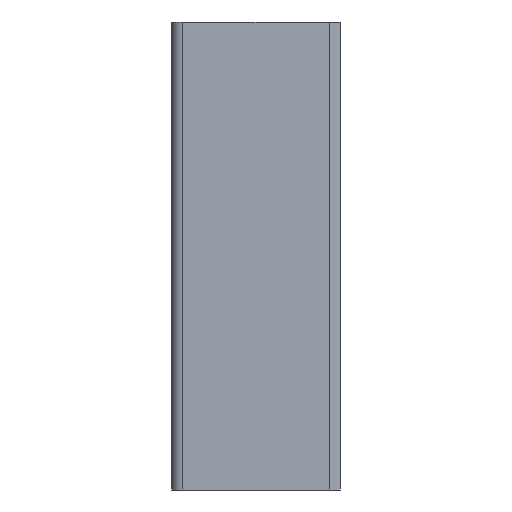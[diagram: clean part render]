
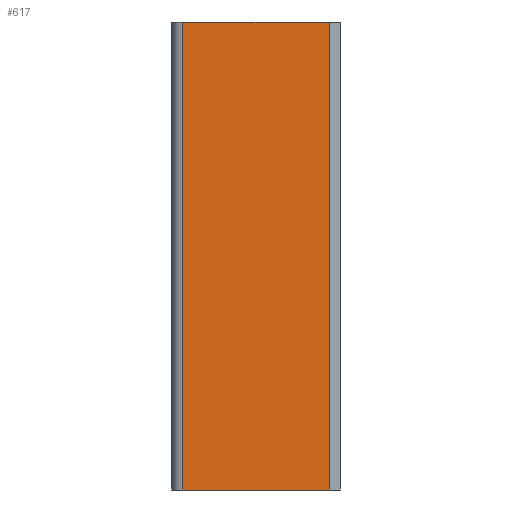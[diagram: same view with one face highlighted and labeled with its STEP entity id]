
A CAD part, left-side view. The second image highlights one B-rep face of the part: STEP entity #617.
In plain terms, the highlighted planar face has unit normal (-1, 0, 0).
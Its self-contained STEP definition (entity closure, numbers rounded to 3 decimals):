
#97=CARTESIAN_POINT('Line Origine',(0.,22.5,0.)) ;
#101=CARTESIAN_POINT('Vertex',(0.,42.,0.)) ;
#103=CARTESIAN_POINT('Vertex',(0.,3.,0.)) ;
#520=CARTESIAN_POINT('Line Origine',(0.,22.5,-125.)) ;
#524=CARTESIAN_POINT('Vertex',(0.,42.,-125.)) ;
#526=CARTESIAN_POINT('Vertex',(0.,3.,-125.)) ;
#596=CARTESIAN_POINT('Axis2P3D Location',(0.,42.,-125.)) ;
#601=CARTESIAN_POINT('Line Origine',(0.,42.,-62.5)) ;
#606=CARTESIAN_POINT('Line Origine',(0.,3.,-62.5)) ;
#98=DIRECTION('Vector Direction',(0.,-1.,0.)) ;
#521=DIRECTION('Vector Direction',(0.,-1.,0.)) ;
#597=DIRECTION('Axis2P3D Direction',(-1.,0.,0.)) ;
#598=DIRECTION('Axis2P3D XDirection',(0.,0.,1.)) ;
#602=DIRECTION('Vector Direction',(0.,0.,1.)) ;
#607=DIRECTION('Vector Direction',(0.,0.,1.)) ;
#599=AXIS2_PLACEMENT_3D('Plane Axis2P3D',#596,#597,#598) ;
#612=ORIENTED_EDGE('',*,*,#105,.F.) ;
#613=ORIENTED_EDGE('',*,*,#605,.F.) ;
#614=ORIENTED_EDGE('',*,*,#528,.T.) ;
#615=ORIENTED_EDGE('',*,*,#610,.T.) ;
#99=VECTOR('Line Direction',#98,1.) ;
#522=VECTOR('Line Direction',#521,1.) ;
#603=VECTOR('Line Direction',#602,1.) ;
#608=VECTOR('Line Direction',#607,1.) ;
#617=ADVANCED_FACE('A935-12515045',(#616),#600,.T.) ;
#105=EDGE_CURVE('',#102,#104,#100,.T.) ;
#528=EDGE_CURVE('',#525,#527,#523,.T.) ;
#605=EDGE_CURVE('',#525,#102,#604,.T.) ;
#610=EDGE_CURVE('',#527,#104,#609,.T.) ;
#611=EDGE_LOOP('',(#612,#613,#614,#615)) ;
#616=FACE_OUTER_BOUND('',#611,.T.) ;
#100=LINE('Line',#97,#99) ;
#523=LINE('Line',#520,#522) ;
#604=LINE('Line',#601,#603) ;
#609=LINE('Line',#606,#608) ;
#600=PLANE('Plane',#599) ;
#102=VERTEX_POINT('',#101) ;
#104=VERTEX_POINT('',#103) ;
#525=VERTEX_POINT('',#524) ;
#527=VERTEX_POINT('',#526) ;
